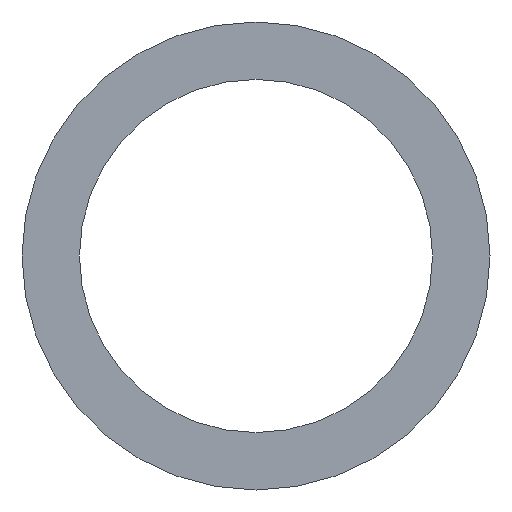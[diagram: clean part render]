
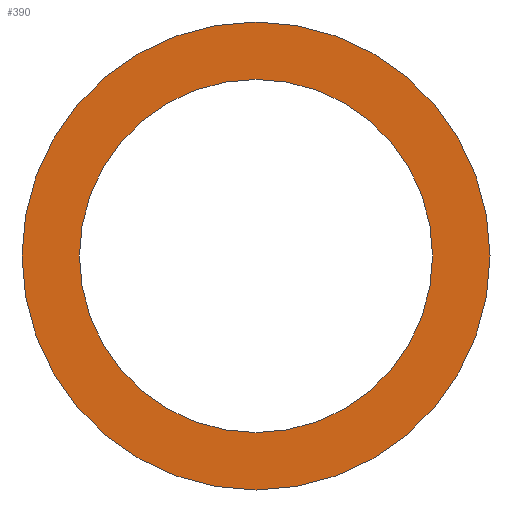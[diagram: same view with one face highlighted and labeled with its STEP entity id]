
A CAD part, front view. The second image highlights one B-rep face of the part: STEP entity #390.
In plain terms, the highlighted planar face has unit normal (0, -1, 0).
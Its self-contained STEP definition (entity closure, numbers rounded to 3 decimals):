
#1 = VERTEX_POINT ( 'NONE', #323 ) ;
#9 = DIRECTION ( 'NONE',  ( 0., 1., 0. ) ) ;
#22 = CARTESIAN_POINT ( 'NONE',  ( 0., 0., -20. ) ) ;
#39 = CIRCLE ( 'NONE', #331, 26.5 ) ;
#51 = ORIENTED_EDGE ( 'NONE', *, *, #249, .T. ) ;
#79 = CARTESIAN_POINT ( 'NONE',  ( 0., 0., 0. ) ) ;
#84 = VERTEX_POINT ( 'NONE', #22 ) ;
#87 = DIRECTION ( 'NONE',  ( 0., 0., 1. ) ) ;
#110 = AXIS2_PLACEMENT_3D ( 'NONE', #385, #130, #205 ) ;
#124 = PLANE ( 'NONE',  #264 ) ;
#125 = CARTESIAN_POINT ( 'NONE',  ( 0., 0., 0. ) ) ;
#127 = ORIENTED_EDGE ( 'NONE', *, *, #384, .F. ) ;
#128 = CARTESIAN_POINT ( 'NONE',  ( 0., 0., 0. ) ) ;
#129 = EDGE_CURVE ( 'NONE', #344, #133, #39, .T. ) ;
#130 = DIRECTION ( 'NONE',  ( 0., 1., 0. ) ) ;
#133 = VERTEX_POINT ( 'NONE', #230 ) ;
#139 = FACE_BOUND ( 'NONE', #149, .T. ) ;
#149 = EDGE_LOOP ( 'NONE', ( #51, #165 ) ) ;
#157 = CARTESIAN_POINT ( 'NONE',  ( 0., 0., 26.5 ) ) ;
#165 = ORIENTED_EDGE ( 'NONE', *, *, #314, .T. ) ;
#183 = DIRECTION ( 'NONE',  ( 0., 1., 0. ) ) ;
#205 = DIRECTION ( 'NONE',  ( 0., 0., 1. ) ) ;
#213 = ORIENTED_EDGE ( 'NONE', *, *, #129, .F. ) ;
#230 = CARTESIAN_POINT ( 'NONE',  ( 0., 0., -26.5 ) ) ;
#246 = FACE_OUTER_BOUND ( 'NONE', #363, .T. ) ;
#248 = DIRECTION ( 'NONE',  ( 0., 0., 1. ) ) ;
#249 = EDGE_CURVE ( 'NONE', #84, #1, #279, .T. ) ;
#264 = AXIS2_PLACEMENT_3D ( 'NONE', #128, #282, #388 ) ;
#269 = CIRCLE ( 'NONE', #332, 20. ) ;
#274 = DIRECTION ( 'NONE',  ( 0., 1., 0. ) ) ;
#279 = CIRCLE ( 'NONE', #306, 20. ) ;
#282 = DIRECTION ( 'NONE',  ( 0., 1., 0. ) ) ;
#306 = AXIS2_PLACEMENT_3D ( 'NONE', #125, #9, #248 ) ;
#314 = EDGE_CURVE ( 'NONE', #1, #84, #269, .T. ) ;
#323 = CARTESIAN_POINT ( 'NONE',  ( 0., 0., 20. ) ) ;
#331 = AXIS2_PLACEMENT_3D ( 'NONE', #369, #183, #467 ) ;
#332 = AXIS2_PLACEMENT_3D ( 'NONE', #79, #274, #87 ) ;
#337 = CIRCLE ( 'NONE', #110, 26.5 ) ;
#344 = VERTEX_POINT ( 'NONE', #157 ) ;
#363 = EDGE_LOOP ( 'NONE', ( #127, #213 ) ) ;
#369 = CARTESIAN_POINT ( 'NONE',  ( 0., 0., 0. ) ) ;
#384 = EDGE_CURVE ( 'NONE', #133, #344, #337, .T. ) ;
#385 = CARTESIAN_POINT ( 'NONE',  ( 0., 0., 0. ) ) ;
#388 = DIRECTION ( 'NONE',  ( 0., 0., 1. ) ) ;
#390 = ADVANCED_FACE ( 'NONE', ( #246, #139 ), #124, .F. ) ;
#467 = DIRECTION ( 'NONE',  ( 0., 0., 1. ) ) ;
